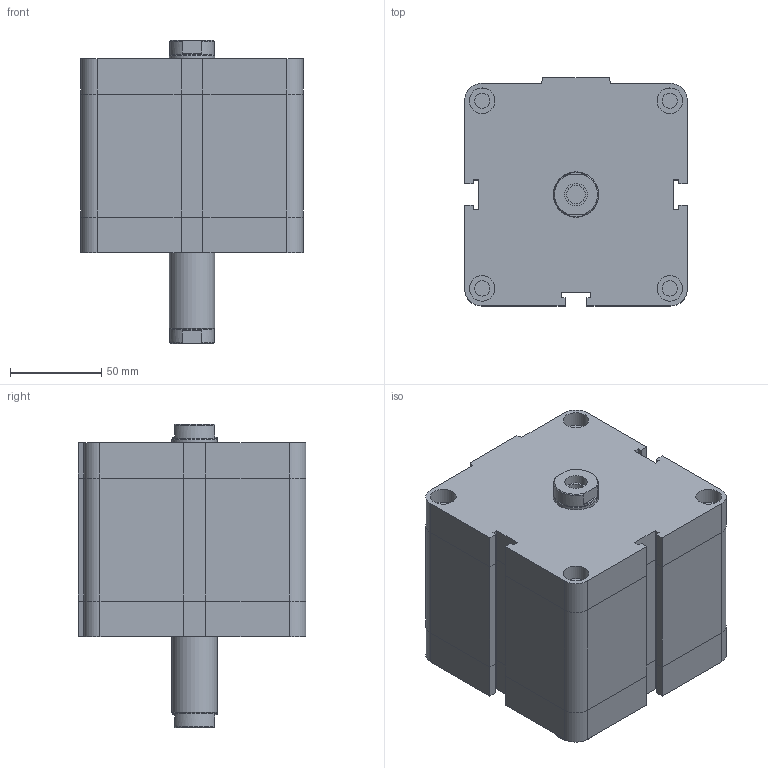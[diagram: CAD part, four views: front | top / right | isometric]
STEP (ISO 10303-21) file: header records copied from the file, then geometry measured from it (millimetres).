
FILE_DESCRIPTION((''),'2;1');
FILE_NAME('I:\Area Tecnica\Disegni\VARIE-3D\Componenti\EUROPE\15##_###_####_03_#\1581_100_0040_03_1.iam.stp','2009-04-20T14:38:38',(''),(''),'Autodesk Inventor 2009','Autodesk Inventor 2009','');
FILE_SCHEMA(('AUTOMOTIVE_DESIGN { 1 0 10303 214 1 1 1 1 }'));
Length unit declared in the file: millimetre
Products named in the file (3): 1581_100_0040_03_1; 1581_100_0040_03_1_C; 1561_100_0040_03_1_S
Assembly tree (2 placements, depth 2):
  1581_100_0040_03_1
    1581_100_0040_03_1_C
    1561_100_0040_03_1_S
Bounding box: 122 x 125 x 166.5 mm (x, y, z)
Volume: 1562957.5 mm3; surface area: 117142.2 mm2
Topology: 2 solids, 2 shells, 174 faces, 379 edges, 231 vertices
Faces by surface type: plane 114, bspline 29, cylinder 25, cone 6
Full cylindrical faces by diameter (mm): 8.376 x4, 10.106 x1, 12.3 x1, 14 x4, 24.5 x2, 25 x1
Entity records: 4758 total; most frequent: CARTESIAN_POINT 1020, DIRECTION 708, ORIENTED_EDGE 676, EDGE_CURVE 338, VECTOR 252, LINE 252, AXIS2_PLACEMENT_3D 228, EDGE_LOOP 226
